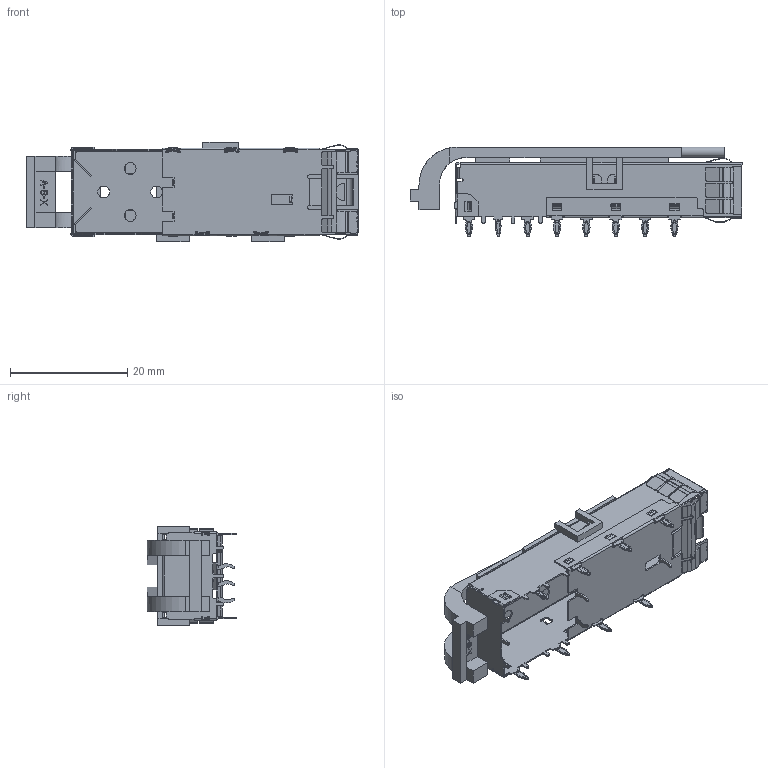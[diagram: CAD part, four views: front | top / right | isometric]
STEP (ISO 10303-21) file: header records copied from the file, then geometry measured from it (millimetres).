
FILE_DESCRIPTION (( 'STEP AP203' ), '1' );
FILE_NAME ('10710211w008_.STEP', '2022-05-11T09:07:59', ( '' ), ( '' ), 'SwSTEP 2.0', 'SolidWorks 2016', '' );
FILE_SCHEMA (( 'CONFIG_CONTROL_DESIGN' ));
Length unit declared in the file: millimetre
Products named in the file (3): 錨璃25^10710211w008_; 10710211w008_.sldasm-Part-7_21; 10710211w008_
Assembly tree (2 placements, depth 2):
  10710211w008_
    錨璃25^10710211w008_
    10710211w008_.sldasm-Part-7_21
Bounding box: 56.53 x 15.3 x 17 mm (x, y, z)
Volume: 1014.2 mm3; surface area: 7252.9 mm2
Topology: 13 solids, 22 shells, 1377 faces, 3995 edges, 2597 vertices
Faces by surface type: plane 797, cylinder 549, bspline 31
Full cylindrical faces by diameter (mm): 1.7 x2, 2 x12
Entity records: 47426 total; most frequent: CARTESIAN_POINT 10702, ORIENTED_EDGE 7890, DIRECTION 7282, EDGE_CURVE 3961, VECTOR 2698, LINE 2698, VERTEX_POINT 2595, AXIS2_PLACEMENT_3D 2292
